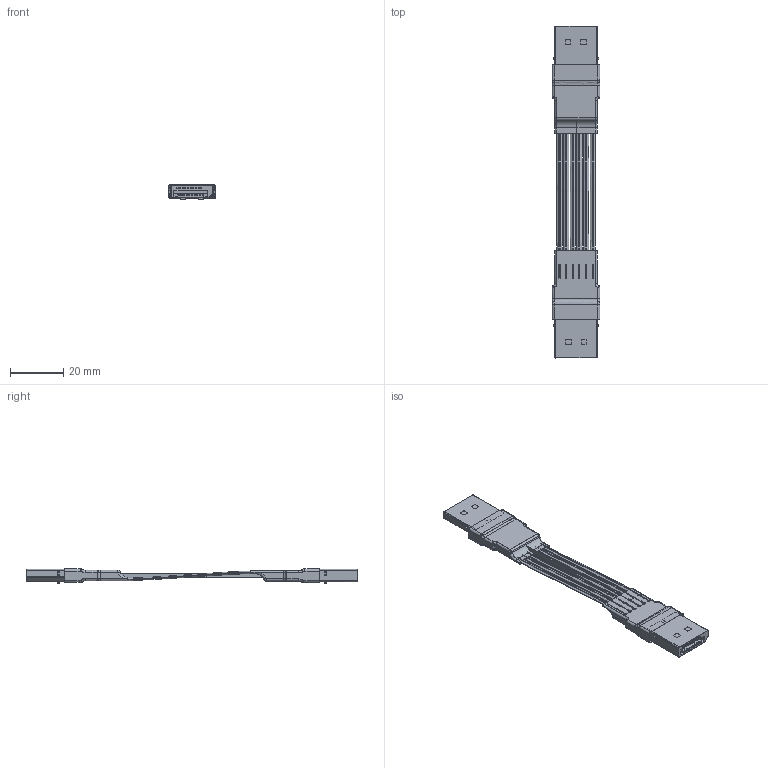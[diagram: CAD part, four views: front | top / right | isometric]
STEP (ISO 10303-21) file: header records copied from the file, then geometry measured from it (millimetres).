
FILE_DESCRIPTION(('Open CASCADE Model'),'2;1');
FILE_NAME('Open CASCADE Shape Model','2025-11-04T14:39:35',('Author'),( 'Open CASCADE'),'Open CASCADE STEP processor 7.5','Open CASCADE 7.5' ,'Unknown');
FILE_SCHEMA(('AUTOMOTIVE_DESIGN { 1 0 10303 214 1 1 1 1 }'));
Length unit declared in the file: millimetre
Products named in the file (21): PCB; Board; Open CASCADE STEP translator 7.5 6.1.1; R1_1; 0603_RES; Capsule; Encapsulation; TopCover; CN2; DP-male 20220804; R1; CN1; Free-Models; DP¹«ͷɈ̵¹ڠ20251104; M±¡П-S 20251023
Assembly tree (27 placements, depth 4):
  PCB
    Board
      Open CASCADE STEP translator 7.5 6.1.1
    R1_1
      0603_RES
        Capsule
        Encapsulation  x2
        TopCover
    CN2
      DP-male 20220804  x2
      DP-male 20220804
    R1
      0603_RES
        Capsule
        Encapsulation  x2
        TopCover
    CN1
      DP-male 20220804  x2
      DP-male 20220804
    Free-Models
      DP¹«ͷɈ̵¹ڠ20251104  x2
      M±¡П-S 20251023
      M±¡П-S 20251023
      M±¡П-S 20251023
      M±¡П-S 20251023
      M±¡П-S 20251023
      M±¡П-S 20251023
Bounding box: 18.01 x 125.09 x 5.35 mm (x, y, z)
Volume: 6681 mm3; surface area: 31648.7 mm2
Topology: 21 solids, 23 shells, 4432 faces, 11598 edges, 7526 vertices
Faces by surface type: plane 2968, cylinder 1012, bspline 408, torus 24, offset 12, revolution 8
Full cylindrical faces by diameter (mm): 0.254 x48, 0.8 x4
Entity records: 111222 total; most frequent: CARTESIAN_POINT 45198, ORIENTED_EDGE 10410, DIRECTION 9542, EDGE_CURVE 5205, VERTEX_POINT 3334, LINE 3312, VECTOR 3312, AXIS2_PLACEMENT_3D 3113
